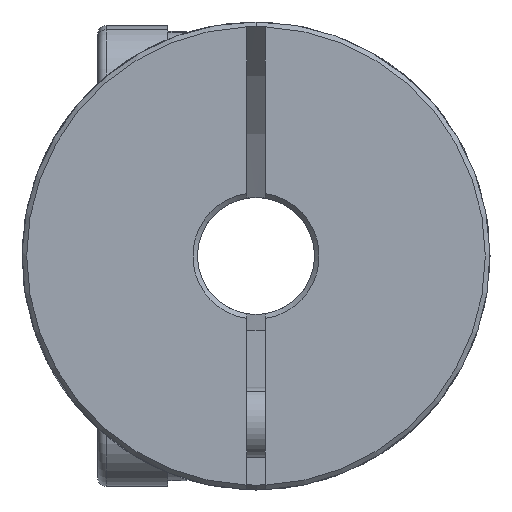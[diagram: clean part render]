
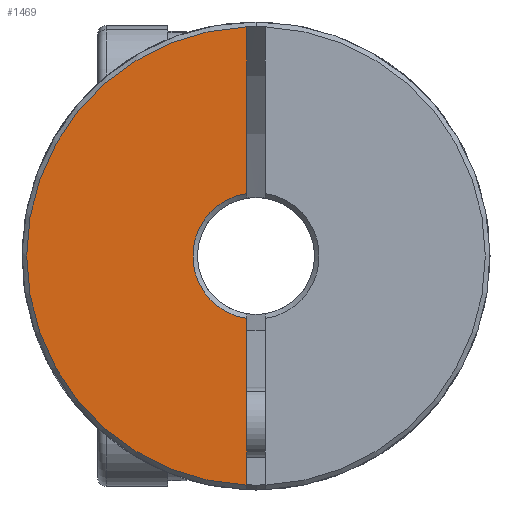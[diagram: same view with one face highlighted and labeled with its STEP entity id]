
A CAD part, front view. The second image highlights one B-rep face of the part: STEP entity #1469.
In plain terms, the highlighted planar face has unit normal (0, -1, 0).
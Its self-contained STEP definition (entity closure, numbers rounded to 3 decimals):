
#121 = EDGE_CURVE ( 'NONE', #7546, #5743, #1936, .T. ) ;
#318 = PLANE ( 'NONE',  #3901 ) ;
#422 = CIRCLE ( 'NONE', #5141, 9.8 ) ;
#437 = VERTEX_POINT ( 'NONE', #4508 ) ;
#521 = CARTESIAN_POINT ( 'NONE',  ( -0.4, -17.5, -2.67 ) ) ;
#577 = ORIENTED_EDGE ( 'NONE', *, *, #5119, .F. ) ;
#1469 = ADVANCED_FACE ( 'NONE', ( #3754 ), #318, .F. ) ;
#1936 = LINE ( 'NONE', #4820, #7391 ) ;
#2045 = LINE ( 'NONE', #4846, #4780 ) ;
#2348 = ORIENTED_EDGE ( 'NONE', *, *, #6809, .T. ) ;
#2621 = DIRECTION ( 'NONE',  ( 0., 1., 0. ) ) ;
#2693 = ORIENTED_EDGE ( 'NONE', *, *, #3231, .T. ) ;
#2701 = CARTESIAN_POINT ( 'NONE',  ( 0., -17.5, 0. ) ) ;
#2769 = CARTESIAN_POINT ( 'NONE',  ( 0., -17.5, 0. ) ) ;
#2951 = DIRECTION ( 'NONE',  ( 0., 0., -1. ) ) ;
#3231 = EDGE_CURVE ( 'NONE', #7546, #437, #422, .T. ) ;
#3754 = FACE_OUTER_BOUND ( 'NONE', #5552, .T. ) ;
#3873 = DIRECTION ( 'NONE',  ( 0., 0., 1. ) ) ;
#3901 = AXIS2_PLACEMENT_3D ( 'NONE', #2701, #2621, #3873 ) ;
#4272 = DIRECTION ( 'NONE',  ( 0., 0., 1. ) ) ;
#4508 = CARTESIAN_POINT ( 'NONE',  ( -0.4, -17.5, -9.792 ) ) ;
#4780 = VECTOR ( 'NONE', #6006, 1000. ) ;
#4820 = CARTESIAN_POINT ( 'NONE',  ( -0.4, -17.5, 0. ) ) ;
#4846 = CARTESIAN_POINT ( 'NONE',  ( -0.4, -17.5, 0. ) ) ;
#5042 = AXIS2_PLACEMENT_3D ( 'NONE', #2769, #6798, #6245 ) ;
#5119 = EDGE_CURVE ( 'NONE', #6411, #437, #2045, .T. ) ;
#5141 = AXIS2_PLACEMENT_3D ( 'NONE', #5350, #6625, #4272 ) ;
#5350 = CARTESIAN_POINT ( 'NONE',  ( 0., -17.5, 0. ) ) ;
#5552 = EDGE_LOOP ( 'NONE', ( #6994, #2693, #577, #2348 ) ) ;
#5743 = VERTEX_POINT ( 'NONE', #7466 ) ;
#6006 = DIRECTION ( 'NONE',  ( 0., 0., -1. ) ) ;
#6188 = CIRCLE ( 'NONE', #5042, 2.7 ) ;
#6245 = DIRECTION ( 'NONE',  ( 0., 0., 1. ) ) ;
#6411 = VERTEX_POINT ( 'NONE', #521 ) ;
#6610 = CARTESIAN_POINT ( 'NONE',  ( -0.4, -17.5, 9.792 ) ) ;
#6625 = DIRECTION ( 'NONE',  ( 0., -1., 0. ) ) ;
#6798 = DIRECTION ( 'NONE',  ( 0., 1., 0. ) ) ;
#6809 = EDGE_CURVE ( 'NONE', #6411, #5743, #6188, .T. ) ;
#6994 = ORIENTED_EDGE ( 'NONE', *, *, #121, .F. ) ;
#7391 = VECTOR ( 'NONE', #2951, 1000. ) ;
#7466 = CARTESIAN_POINT ( 'NONE',  ( -0.4, -17.5, 2.67 ) ) ;
#7546 = VERTEX_POINT ( 'NONE', #6610 ) ;
